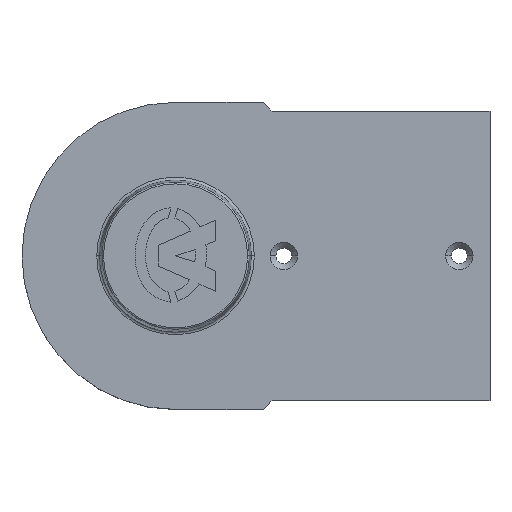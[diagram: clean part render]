
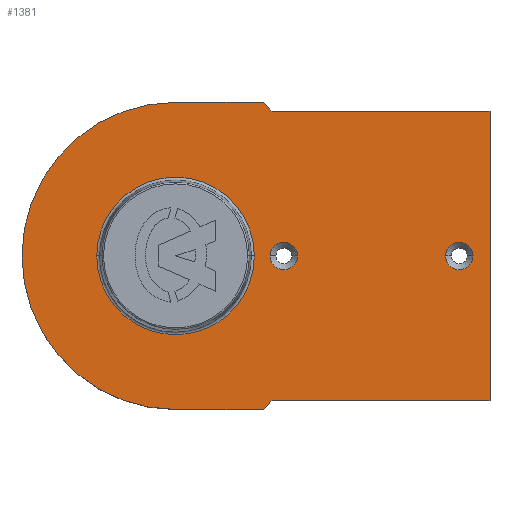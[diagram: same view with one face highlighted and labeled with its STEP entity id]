
A CAD part, top view. The second image highlights one B-rep face of the part: STEP entity #1381.
In plain terms, the highlighted planar face has unit normal (0, 0, 1).
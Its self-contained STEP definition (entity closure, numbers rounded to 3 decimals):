
#150 = VERTEX_POINT ( 'NONE', #1652 ) ;
#1287 = EDGE_CURVE ( 'NONE', #1289, #1288, #3474, .T. ) ;
#1288 = VERTEX_POINT ( 'NONE', #3501 ) ;
#1289 = VERTEX_POINT ( 'NONE', #3500 ) ;
#1381 = ADVANCED_FACE ( 'NONE', ( #3662, #3643, #3633, #3654 ), #3645, .T. ) ;
#1382 = EDGE_LOOP ( 'NONE', ( #1391, #1402 ) ) ;
#1383 = ORIENTED_EDGE ( 'NONE', *, *, #1411, .T. ) ;
#1384 = EDGE_LOOP ( 'NONE', ( #1387, #1389 ) ) ;
#1386 = VERTEX_POINT ( 'NONE', #3651 ) ;
#1387 = ORIENTED_EDGE ( 'NONE', *, *, #1405, .F. ) ;
#1388 = ORIENTED_EDGE ( 'NONE', *, *, #1404, .T. ) ;
#1389 = ORIENTED_EDGE ( 'NONE', *, *, #7076, .F. ) ;
#1390 = EDGE_CURVE ( 'NONE', #1288, #1289, #3698, .T. ) ;
#1391 = ORIENTED_EDGE ( 'NONE', *, *, #1390, .F. ) ;
#1393 = VERTEX_POINT ( 'NONE', #3692 ) ;
#1394 = EDGE_LOOP ( 'NONE', ( #1388, #1441, #1396, #1448, #1440, #1447, #1432, #1454 ) ) ;
#1396 = ORIENTED_EDGE ( 'NONE', *, *, #1442, .T. ) ;
#1398 = VERTEX_POINT ( 'NONE', #3699 ) ;
#1399 = VERTEX_POINT ( 'NONE', #3686 ) ;
#1402 = ORIENTED_EDGE ( 'NONE', *, *, #1287, .F. ) ;
#1404 = EDGE_CURVE ( 'NONE', #1407, #1398, #3679, .T. ) ;
#1405 = EDGE_CURVE ( 'NONE', #7075, #7109, #3691, .T. ) ;
#1407 = VERTEX_POINT ( 'NONE', #3731 ) ;
#1408 = EDGE_LOOP ( 'NONE', ( #1412, #1383 ) ) ;
#1411 = EDGE_CURVE ( 'NONE', #150, #7087, #3716, .T. ) ;
#1412 = ORIENTED_EDGE ( 'NONE', *, *, #7128, .T. ) ;
#1413 = EDGE_CURVE ( 'NONE', #1398, #1393, #3709, .T. ) ;
#1429 = EDGE_CURVE ( 'NONE', #1443, #1446, #3746, .T. ) ;
#1432 = ORIENTED_EDGE ( 'NONE', *, *, #1429, .T. ) ;
#1440 = ORIENTED_EDGE ( 'NONE', *, *, #1449, .T. ) ;
#1441 = ORIENTED_EDGE ( 'NONE', *, *, #1413, .T. ) ;
#1442 = EDGE_CURVE ( 'NONE', #1393, #1399, #3793, .T. ) ;
#1443 = VERTEX_POINT ( 'NONE', #3748 ) ;
#1444 = VERTEX_POINT ( 'NONE', #3738 ) ;
#1445 = EDGE_CURVE ( 'NONE', #1399, #1386, #3737, .T. ) ;
#1446 = VERTEX_POINT ( 'NONE', #3794 ) ;
#1447 = ORIENTED_EDGE ( 'NONE', *, *, #1452, .T. ) ;
#1448 = ORIENTED_EDGE ( 'NONE', *, *, #1445, .T. ) ;
#1449 = EDGE_CURVE ( 'NONE', #1386, #1444, #3781, .T. ) ;
#1451 = EDGE_CURVE ( 'NONE', #1446, #1407, #3776, .T. ) ;
#1452 = EDGE_CURVE ( 'NONE', #1444, #1443, #3771, .T. ) ;
#1454 = ORIENTED_EDGE ( 'NONE', *, *, #1451, .T. ) ;
#1652 = CARTESIAN_POINT ( 'NONE',  ( -26.933, 0., 0. ) ) ;
#3458 = AXIS2_PLACEMENT_3D ( 'NONE', #3509, #3498, #3497 ) ;
#3474 = CIRCLE ( 'NONE', #3458, 4.7 ) ;
#3497 = DIRECTION ( 'NONE',  ( 1., 0., 0. ) ) ;
#3498 = DIRECTION ( 'NONE',  ( 0., 0., 1. ) ) ;
#3500 = CARTESIAN_POINT ( 'NONE',  ( 92.3, 0., 0. ) ) ;
#3501 = CARTESIAN_POINT ( 'NONE',  ( 101.7, 0., 0. ) ) ;
#3509 = CARTESIAN_POINT ( 'NONE',  ( 97., 0., 0. ) ) ;
#3633 = FACE_BOUND ( 'NONE', #1382, .T. ) ;
#3637 = AXIS2_PLACEMENT_3D ( 'NONE', #3648, #3696, #3695 ) ;
#3643 = FACE_BOUND ( 'NONE', #1384, .T. ) ;
#3644 = CARTESIAN_POINT ( 'NONE',  ( 37., 0., 0. ) ) ;
#3645 = PLANE ( 'NONE',  #3637 ) ;
#3648 = CARTESIAN_POINT ( 'NONE',  ( 0., 0., 0. ) ) ;
#3651 = CARTESIAN_POINT ( 'NONE',  ( 0., 52.5, 0. ) ) ;
#3654 = FACE_OUTER_BOUND ( 'NONE', #1394, .T. ) ;
#3662 = FACE_BOUND ( 'NONE', #1408, .T. ) ;
#3670 = DIRECTION ( 'NONE',  ( 1., 0., 0. ) ) ;
#3671 = DIRECTION ( 'NONE',  ( 0., 0., 1. ) ) ;
#3674 = DIRECTION ( 'NONE',  ( 0., 1., 0. ) ) ;
#3675 = VECTOR ( 'NONE', #3674, 1000. ) ;
#3679 = LINE ( 'NONE', #3693, #3675 ) ;
#3686 = CARTESIAN_POINT ( 'NONE',  ( 30., 52.5, 0. ) ) ;
#3687 = AXIS2_PLACEMENT_3D ( 'NONE', #3644, #3671, #3670 ) ;
#3688 = DIRECTION ( 'NONE',  ( 1., 0., 0. ) ) ;
#3689 = DIRECTION ( 'NONE',  ( 0., 0., 1. ) ) ;
#3690 = CARTESIAN_POINT ( 'NONE',  ( 97., 0., 0. ) ) ;
#3691 = CIRCLE ( 'NONE', #3687, 4.7 ) ;
#3692 = CARTESIAN_POINT ( 'NONE',  ( 33., 49.5, 0. ) ) ;
#3693 = CARTESIAN_POINT ( 'NONE',  ( 107.5, -49.5, 0. ) ) ;
#3695 = DIRECTION ( 'NONE',  ( 1., 0., 0. ) ) ;
#3696 = DIRECTION ( 'NONE',  ( 0., 0., 1. ) ) ;
#3697 = AXIS2_PLACEMENT_3D ( 'NONE', #3690, #3689, #3688 ) ;
#3698 = CIRCLE ( 'NONE', #3697, 4.7 ) ;
#3699 = CARTESIAN_POINT ( 'NONE',  ( 107.5, 49.5, 0. ) ) ;
#3706 = DIRECTION ( 'NONE',  ( -1., 0., 0. ) ) ;
#3707 = VECTOR ( 'NONE', #3706, 1000. ) ;
#3708 = CARTESIAN_POINT ( 'NONE',  ( 107.5, 49.5, 0. ) ) ;
#3709 = LINE ( 'NONE', #3708, #3707 ) ;
#3712 = DIRECTION ( 'NONE',  ( 1., 0., 0. ) ) ;
#3713 = DIRECTION ( 'NONE',  ( 0., 0., -1. ) ) ;
#3714 = CARTESIAN_POINT ( 'NONE',  ( 0., 0., 0. ) ) ;
#3715 = AXIS2_PLACEMENT_3D ( 'NONE', #3714, #3713, #3712 ) ;
#3716 = CIRCLE ( 'NONE', #3715, 26.933 ) ;
#3731 = CARTESIAN_POINT ( 'NONE',  ( 107.5, -49.5, 0. ) ) ;
#3737 = LINE ( 'NONE', #3786, #3785 ) ;
#3738 = CARTESIAN_POINT ( 'NONE',  ( 0., -52.5, 0. ) ) ;
#3744 = DIRECTION ( 'NONE',  ( 0.707, 0.707, 0. ) ) ;
#3745 = VECTOR ( 'NONE', #3744, 1000. ) ;
#3746 = LINE ( 'NONE', #3758, #3745 ) ;
#3748 = CARTESIAN_POINT ( 'NONE',  ( 30., -52.5, 0. ) ) ;
#3758 = CARTESIAN_POINT ( 'NONE',  ( 33., -49.5, 0. ) ) ;
#3767 = DIRECTION ( 'NONE',  ( 1., 0., 0. ) ) ;
#3768 = VECTOR ( 'NONE', #3767, 1000. ) ;
#3769 = CARTESIAN_POINT ( 'NONE',  ( 30., -52.5, 0. ) ) ;
#3771 = LINE ( 'NONE', #3769, #3768 ) ;
#3773 = DIRECTION ( 'NONE',  ( 1., 0., 0. ) ) ;
#3774 = VECTOR ( 'NONE', #3773, 1000. ) ;
#3775 = CARTESIAN_POINT ( 'NONE',  ( 107.5, -49.5, 0. ) ) ;
#3776 = LINE ( 'NONE', #3775, #3774 ) ;
#3778 = DIRECTION ( 'NONE',  ( 1., 0., 0. ) ) ;
#3779 = DIRECTION ( 'NONE',  ( 0., 0., 1. ) ) ;
#3780 = AXIS2_PLACEMENT_3D ( 'NONE', #3787, #3779, #3778 ) ;
#3781 = CIRCLE ( 'NONE', #3780, 52.5 ) ;
#3784 = DIRECTION ( 'NONE',  ( -1., 0., 0. ) ) ;
#3785 = VECTOR ( 'NONE', #3784, 1000. ) ;
#3786 = CARTESIAN_POINT ( 'NONE',  ( 30., 52.5, 0. ) ) ;
#3787 = CARTESIAN_POINT ( 'NONE',  ( 0., 0., 0. ) ) ;
#3790 = DIRECTION ( 'NONE',  ( -0.707, 0.707, 0. ) ) ;
#3791 = VECTOR ( 'NONE', #3790, 1000. ) ;
#3792 = CARTESIAN_POINT ( 'NONE',  ( 33., 49.5, 0. ) ) ;
#3793 = LINE ( 'NONE', #3792, #3791 ) ;
#3794 = CARTESIAN_POINT ( 'NONE',  ( 33., -49.5, 0. ) ) ;
#5483 = CIRCLE ( 'NONE', #5521, 4.7 ) ;
#5486 = CARTESIAN_POINT ( 'NONE',  ( 41.7, 0., 0. ) ) ;
#5518 = DIRECTION ( 'NONE',  ( 1., 0., 0. ) ) ;
#5519 = DIRECTION ( 'NONE',  ( 0., 0., 1. ) ) ;
#5520 = CARTESIAN_POINT ( 'NONE',  ( 37., 0., 0. ) ) ;
#5521 = AXIS2_PLACEMENT_3D ( 'NONE', #5520, #5519, #5518 ) ;
#5526 = CARTESIAN_POINT ( 'NONE',  ( 26.933, 0., 0. ) ) ;
#5594 = CARTESIAN_POINT ( 'NONE',  ( 32.3, 0., 0. ) ) ;
#5605 = DIRECTION ( 'NONE',  ( 1., 0., 0. ) ) ;
#5606 = DIRECTION ( 'NONE',  ( 0., 0., -1. ) ) ;
#5607 = CARTESIAN_POINT ( 'NONE',  ( 0., 0., 0. ) ) ;
#5608 = AXIS2_PLACEMENT_3D ( 'NONE', #5607, #5606, #5605 ) ;
#5611 = CIRCLE ( 'NONE', #5608, 26.933 ) ;
#7075 = VERTEX_POINT ( 'NONE', #5486 ) ;
#7076 = EDGE_CURVE ( 'NONE', #7109, #7075, #5483, .T. ) ;
#7087 = VERTEX_POINT ( 'NONE', #5526 ) ;
#7109 = VERTEX_POINT ( 'NONE', #5594 ) ;
#7128 = EDGE_CURVE ( 'NONE', #7087, #150, #5611, .T. ) ;
